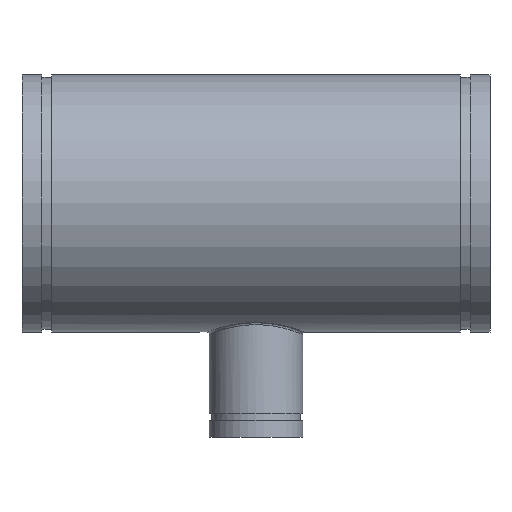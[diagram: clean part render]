
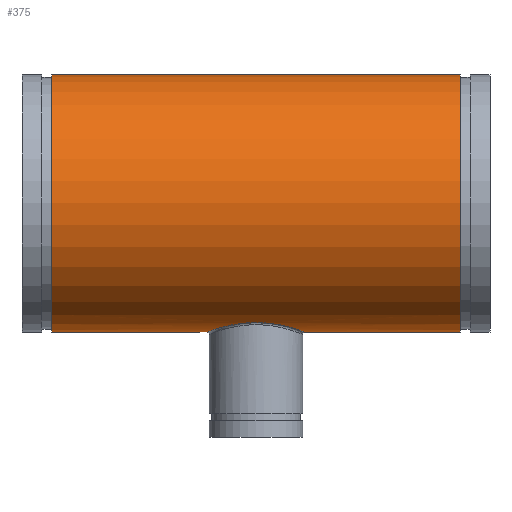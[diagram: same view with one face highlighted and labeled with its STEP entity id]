
A CAD part, top view. The second image highlights one B-rep face of the part: STEP entity #375.
In plain terms, the highlighted cylindrical face has radius 167.64 mm (diameter 335.28 mm), a full revolution.
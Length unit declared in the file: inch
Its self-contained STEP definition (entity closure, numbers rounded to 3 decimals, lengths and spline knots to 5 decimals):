
#54=FACE_BOUND('',#119,.T.);
#65=LINE('',#784,#76);
#76=VECTOR('',#483,6.6);
#87=CYLINDRICAL_SURFACE('',#415,6.6);
#98=FACE_OUTER_BOUND('',#118,.T.);
#118=EDGE_LOOP('',(#266,#267,#268,#269));
#119=EDGE_LOOP('',(#270));
#150=B_SPLINE_CURVE_WITH_KNOTS('',3,(#757,#758,#759,#760,#761,#762,#763,
#764,#765,#766,#767,#768,#769,#770,#771,#772,#773,#774,#775,#776,#777,#778,
#779),.UNSPECIFIED.,.T.,.F.,(4,1,1,1,1,1,1,1,1,1,1,1,1,1,1,1,1,1,1,1,4),
(-37.11189,-35.78646,-34.46104,-31.81019,
-30.04296,-28.27572,-26.50849,-24.74126,
-22.97403,-21.20679,-19.43956,-17.67233,
-15.90509,-12.37063,-10.6034,-8.83616,
-7.06893,-5.3017,-2.65085,-1.32542,
0.),.UNSPECIFIED.);
#154=CIRCLE('',#416,6.6);
#155=CIRCLE('',#417,6.6);
#182=VERTEX_POINT('',#726);
#185=VERTEX_POINT('',#781);
#186=VERTEX_POINT('',#783);
#219=EDGE_CURVE('',#182,#182,#150,.T.);
#220=EDGE_CURVE('',#185,#185,#154,.T.);
#221=EDGE_CURVE('',#185,#186,#65,.T.);
#222=EDGE_CURVE('',#186,#186,#155,.T.);
#266=ORIENTED_EDGE('',*,*,#220,.T.);
#267=ORIENTED_EDGE('',*,*,#221,.T.);
#268=ORIENTED_EDGE('',*,*,#222,.T.);
#269=ORIENTED_EDGE('',*,*,#221,.F.);
#270=ORIENTED_EDGE('',*,*,#219,.F.);
#375=ADVANCED_FACE('',(#98,#54),#87,.T.);
#415=AXIS2_PLACEMENT_3D('',#780,#479,#480);
#416=AXIS2_PLACEMENT_3D('',#782,#481,#482);
#417=AXIS2_PLACEMENT_3D('',#785,#484,#485);
#479=DIRECTION('center_axis',(-1.,0.,0.));
#480=DIRECTION('ref_axis',(0.,-1.,0.));
#481=DIRECTION('center_axis',(1.,0.,0.));
#482=DIRECTION('ref_axis',(0.,-1.,0.));
#483=DIRECTION('',(1.,0.,0.));
#484=DIRECTION('center_axis',(-1.,0.,0.));
#485=DIRECTION('ref_axis',(0.,-1.,0.));
#726=CARTESIAN_POINT('',(0.,-6.11712,-2.47807));
#757=CARTESIAN_POINT('Ctrl Pts',(0.,-6.11712,
-2.47807));
#758=CARTESIAN_POINT('Ctrl Pts',(0.19065,-6.11712,-2.47807));
#759=CARTESIAN_POINT('Ctrl Pts',(0.57178,-6.13466,-2.43537));
#760=CARTESIAN_POINT('Ctrl Pts',(1.2902,-6.23094,-2.18649));
#761=CARTESIAN_POINT('Ctrl Pts',(1.93729,-6.39829,-1.67833));
#762=CARTESIAN_POINT('Ctrl Pts',(2.38296,-6.54744,-0.92604));
#763=CARTESIAN_POINT('Ctrl Pts',(2.55661,-6.61184,-0.1903));
#764=CARTESIAN_POINT('Ctrl Pts',(2.49791,-6.58965,0.56563));
#765=CARTESIAN_POINT('Ctrl Pts',(2.21579,-6.48907,1.26335));
#766=CARTESIAN_POINT('Ctrl Pts',(1.74289,-6.34471,1.84301));
#767=CARTESIAN_POINT('Ctrl Pts',(1.11842,-6.20299,2.2629));
#768=CARTESIAN_POINT('Ctrl Pts',(0.38642,-6.11355,2.48741));
#769=CARTESIAN_POINT('Ctrl Pts',(-0.38634,-6.11333,2.4872));
#770=CARTESIAN_POINT('Ctrl Pts',(-1.36281,-6.23319,2.18865));
#771=CARTESIAN_POINT('Ctrl Pts',(-2.12215,-6.45575,1.49638));
#772=CARTESIAN_POINT('Ctrl Pts',(-2.49778,-6.5896,0.56546));
#773=CARTESIAN_POINT('Ctrl Pts',(-2.55662,-6.61183,-0.19018));
#774=CARTESIAN_POINT('Ctrl Pts',(-2.38295,-6.54745,-0.92612));
#775=CARTESIAN_POINT('Ctrl Pts',(-1.9373,-6.39828,-1.67829));
#776=CARTESIAN_POINT('Ctrl Pts',(-1.29018,-6.23094,-2.18652));
#777=CARTESIAN_POINT('Ctrl Pts',(-0.57179,-6.13466,-2.43536));
#778=CARTESIAN_POINT('Ctrl Pts',(-0.19065,-6.11712,-2.47807));
#779=CARTESIAN_POINT('Ctrl Pts',(0.,-6.11712,
-2.47807));
#780=CARTESIAN_POINT('Origin',(12.,0.,0.));
#781=CARTESIAN_POINT('',(-10.485,6.6,0.));
#782=CARTESIAN_POINT('Origin',(-10.485,0.,0.));
#783=CARTESIAN_POINT('',(10.485,6.6,0.));
#784=CARTESIAN_POINT('',(12.,6.6,0.));
#785=CARTESIAN_POINT('Origin',(10.485,0.,0.));
